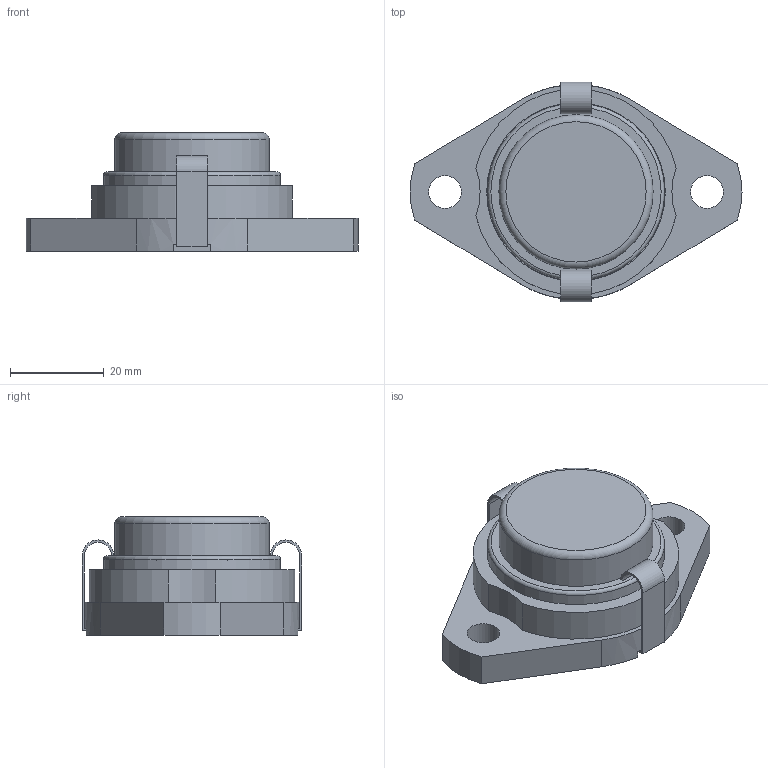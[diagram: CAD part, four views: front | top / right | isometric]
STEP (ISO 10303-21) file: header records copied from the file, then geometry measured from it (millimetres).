
FILE_DESCRIPTION((''),'2;1');
FILE_NAME('\\Ts-tgl068\j-cad-d-base\00.3DCADデータ作成フォルダ\11.エコシリーズ\MUSFL000\MUSFL003E.stp','2014-11-12T09:52:09',('btec_1106_2'),(''),'Autodesk Inventor 2012','Autodesk Inventor 2012','');
FILE_SCHEMA(('AUTOMOTIVE_DESIGN { 1 0 10303 214 1 1 1 1 }'));
Length unit declared in the file: millimetre
Products named in the file (5): MUSFL000C(E); SFL003; U003; 003CPE; 2-3CLL
Assembly tree (5 placements, depth 2):
  MUSFL000C(E)
    SFL003
    U003
    003CPE
    2-3CLL  x2
Bounding box: 71 x 47 x 25.3 mm (x, y, z)
Volume: 21728.9 mm3; surface area: 16849.9 mm2
Topology: 5 solids, 5 shells, 107 faces, 257 edges, 168 vertices
Faces by surface type: plane 60, cylinder 38, torus 4, cone 3, sphere 2
Full cylindrical faces by diameter (mm): 3.242 x1, 3.5 x1, 7 x2, 17 x1, 23.1 x1, 25 x1, 32.4 x1, 33 x1, 37.2 x1, 37.8 x1, 38.2 x1
Entity records: 2944 total; most frequent: CARTESIAN_POINT 589, DIRECTION 494, ORIENTED_EDGE 406, EDGE_CURVE 203, AXIS2_PLACEMENT_3D 190, VERTEX_POINT 145, EDGE_LOOP 138, VECTOR 114
